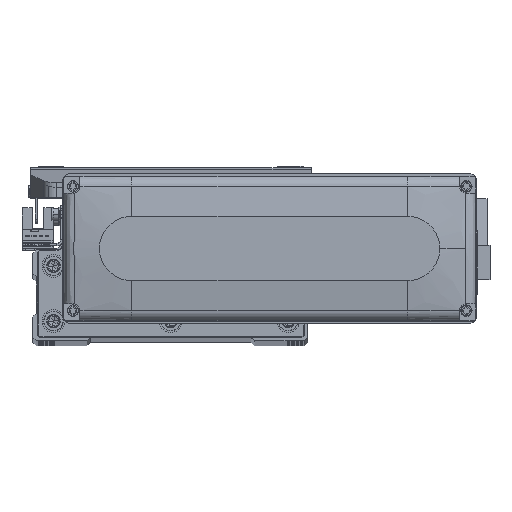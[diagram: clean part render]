
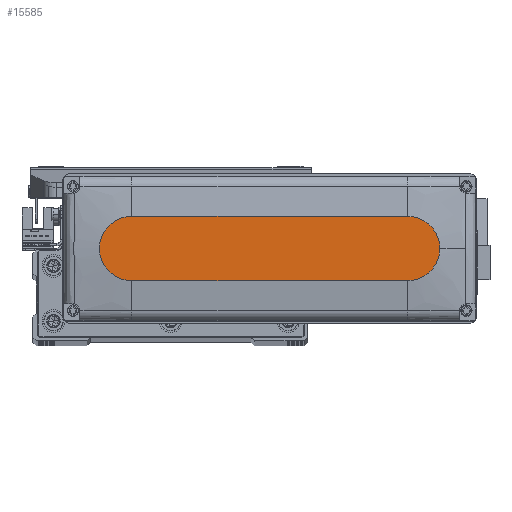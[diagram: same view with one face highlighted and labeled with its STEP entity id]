
A CAD part, top view. The second image highlights one B-rep face of the part: STEP entity #15585.
In plain terms, the highlighted planar face has unit normal (0, 0, 1).
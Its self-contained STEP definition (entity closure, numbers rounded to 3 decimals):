
#131 = DIRECTION ( 'NONE',  ( 0., 0., 1. ) ) ;
#251 = EDGE_CURVE ( 'NONE', #11720, #2450, #50748, .T. ) ;
#2450 = VERTEX_POINT ( 'NONE', #21885 ) ;
#3638 = ORIENTED_EDGE ( 'NONE', *, *, #34054, .T. ) ;
#3673 = LINE ( 'NONE', #55904, #32344 ) ;
#10531 = DIRECTION ( 'NONE',  ( 1., 0., 0. ) ) ;
#11510 = VERTEX_POINT ( 'NONE', #13833 ) ;
#11599 = DIRECTION ( 'NONE',  ( 1., 0., 0. ) ) ;
#11622 = ORIENTED_EDGE ( 'NONE', *, *, #52695, .T. ) ;
#11720 = VERTEX_POINT ( 'NONE', #28646 ) ;
#13833 = CARTESIAN_POINT ( 'NONE',  ( 60., -14., 28.5 ) ) ;
#14651 = CARTESIAN_POINT ( 'NONE',  ( -60., 0., 28.5 ) ) ;
#15585 = ADVANCED_FACE ( 'NONE', ( #37153 ), #27734, .T. ) ;
#17232 = CARTESIAN_POINT ( 'NONE',  ( 60., 0., 28.5 ) ) ;
#18337 = EDGE_CURVE ( 'NONE', #2450, #11510, #24997, .T. ) ;
#18640 = DIRECTION ( 'NONE',  ( 1., 0., 0. ) ) ;
#19627 = CARTESIAN_POINT ( 'NONE',  ( 74., 0., 28.5 ) ) ;
#20063 = DIRECTION ( 'NONE',  ( 1., 0., 0. ) ) ;
#20193 = EDGE_LOOP ( 'NONE', ( #3638, #45422, #39181, #41532, #11622 ) ) ;
#20508 = DIRECTION ( 'NONE',  ( 0., 0., 1. ) ) ;
#20731 = AXIS2_PLACEMENT_3D ( 'NONE', #31469, #45150, #18640 ) ;
#21885 = CARTESIAN_POINT ( 'NONE',  ( -60., -14., 28.5 ) ) ;
#22914 = VERTEX_POINT ( 'NONE', #24018 ) ;
#24018 = CARTESIAN_POINT ( 'NONE',  ( 60., 14., 28.5 ) ) ;
#24287 = AXIS2_PLACEMENT_3D ( 'NONE', #14651, #24358, #20063 ) ;
#24358 = DIRECTION ( 'NONE',  ( 0., 0., 1. ) ) ;
#24997 = LINE ( 'NONE', #33273, #52971 ) ;
#27734 = PLANE ( 'NONE',  #20731 ) ;
#28646 = CARTESIAN_POINT ( 'NONE',  ( -60., 14., 28.5 ) ) ;
#29617 = DIRECTION ( 'NONE',  ( -1., 0., 0. ) ) ;
#30235 = AXIS2_PLACEMENT_3D ( 'NONE', #53357, #20508, #10531 ) ;
#31469 = CARTESIAN_POINT ( 'NONE',  ( 0., 0., 28.5 ) ) ;
#31901 = EDGE_CURVE ( 'NONE', #11510, #45442, #40331, .T. ) ;
#32344 = VECTOR ( 'NONE', #29617, 1000. ) ;
#33273 = CARTESIAN_POINT ( 'NONE',  ( -60., -14., 28.5 ) ) ;
#34054 = EDGE_CURVE ( 'NONE', #22914, #11720, #3673, .T. ) ;
#37153 = FACE_OUTER_BOUND ( 'NONE', #20193, .T. ) ;
#39181 = ORIENTED_EDGE ( 'NONE', *, *, #18337, .T. ) ;
#40331 = CIRCLE ( 'NONE', #51310, 14. ) ;
#41532 = ORIENTED_EDGE ( 'NONE', *, *, #31901, .T. ) ;
#44835 = CIRCLE ( 'NONE', #30235, 14. ) ;
#45150 = DIRECTION ( 'NONE',  ( 0., 0., 1. ) ) ;
#45422 = ORIENTED_EDGE ( 'NONE', *, *, #251, .T. ) ;
#45442 = VERTEX_POINT ( 'NONE', #19627 ) ;
#50748 = CIRCLE ( 'NONE', #24287, 14. ) ;
#51310 = AXIS2_PLACEMENT_3D ( 'NONE', #17232, #131, #52901 ) ;
#52695 = EDGE_CURVE ( 'NONE', #45442, #22914, #44835, .T. ) ;
#52901 = DIRECTION ( 'NONE',  ( 1., 0., 0. ) ) ;
#52971 = VECTOR ( 'NONE', #11599, 1000. ) ;
#53357 = CARTESIAN_POINT ( 'NONE',  ( 60., 0., 28.5 ) ) ;
#55904 = CARTESIAN_POINT ( 'NONE',  ( -60., 14., 28.5 ) ) ;
